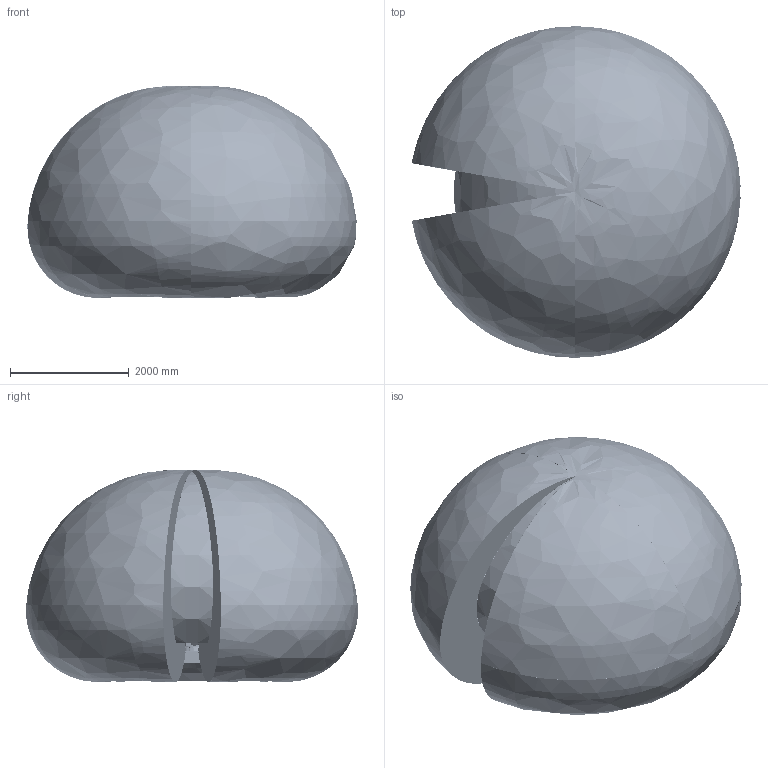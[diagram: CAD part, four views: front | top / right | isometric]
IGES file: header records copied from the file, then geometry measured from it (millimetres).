
Start section: SolidWorks IGES file using analytic representation for surfaces
Global section: file name: C:\DATA\SAP_DOC\LW\IRB 6720\IRB6720-LID-MH_200kg-280_OC_01_SW_J\export\IRB6720-LID-MH_200kg-280_OC_01_IGES_J\IRB6720-LID-MH_200kg-280_OC_01_ASM_CAD.igs; native system: SolidWorks 2024; preprocessor: SolidWorks 2024; author: SEJOVAS3; date: 260526.091033; units: millimetre
Bounding box: 5551.59 x 5600.42 x 3572.45 mm (x, y, z)
Surface area: 112564633.7 mm2 (no closed solid volume)
Topology: 0 solids, 0 shells, 9506 faces, 149093 edges, 148916 vertices
Faces by surface type: bspline 5593, revolution 3913
